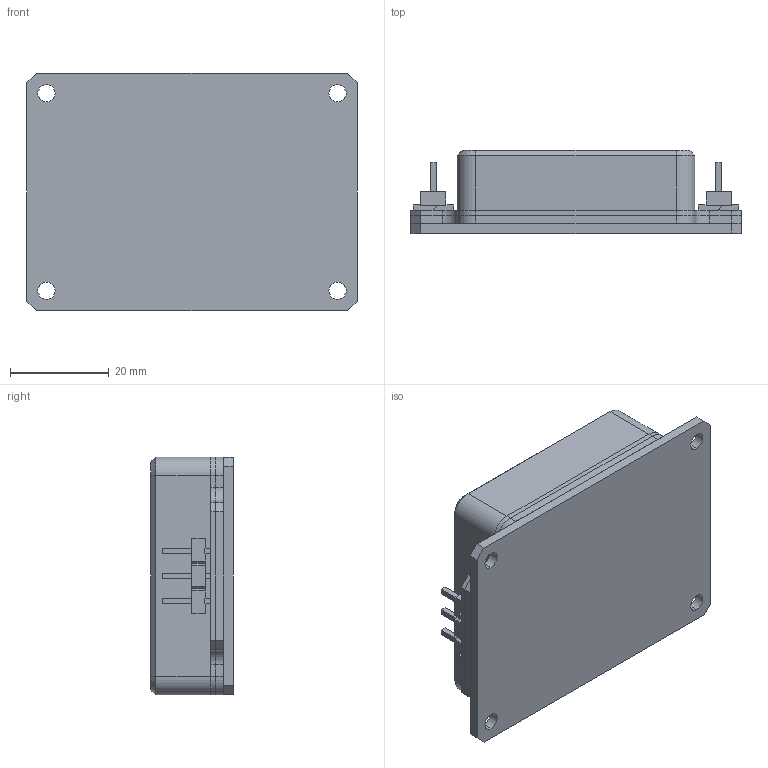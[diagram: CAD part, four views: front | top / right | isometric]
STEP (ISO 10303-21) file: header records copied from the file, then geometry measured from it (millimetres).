
FILE_DESCRIPTION (( 'STEP AP203' ), '1' );
FILE_NAME ('GIL-F200WB.STEP', '2016-10-27T18:01:29', ( 'gregory' ), ( '' ), 'SwSTEP 2.0', 'SolidWorks 2011', '' );
FILE_SCHEMA (( 'CONFIG_CONTROL_DESIGN' ));
Length unit declared in the file: millimetre
Products named in the file (1): GIL-F200WB
Bounding box: 67 x 16.75 x 48.2 mm (x, y, z)
Volume: 42217 mm3; surface area: 26927.6 mm2
Topology: 6 solids, 6 shells, 235 faces, 620 edges, 404 vertices
Faces by surface type: plane 172, cylinder 51, cone 12
Entity records: 7219 total; most frequent: CARTESIAN_POINT 1252, ORIENTED_EDGE 1224, DIRECTION 1190, EDGE_CURVE 612, VECTOR 506, LINE 506, VERTEX_POINT 404, AXIS2_PLACEMENT_3D 342
